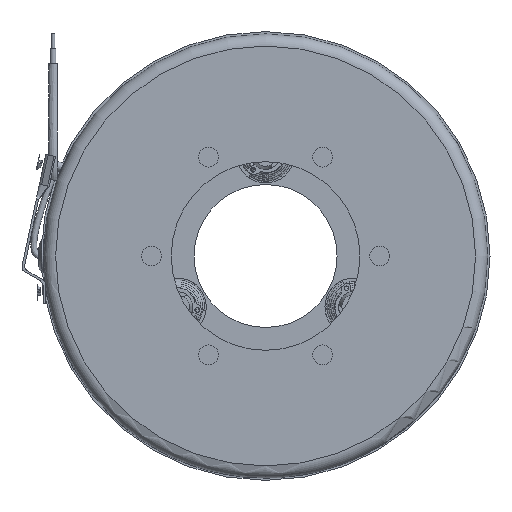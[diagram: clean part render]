
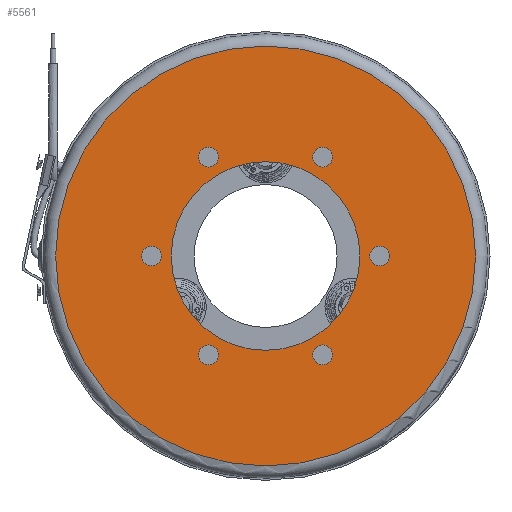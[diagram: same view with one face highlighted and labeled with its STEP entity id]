
A CAD part, left-side view. The second image highlights one B-rep face of the part: STEP entity #5561.
In plain terms, the highlighted planar face has unit normal (-1, 0, 0).
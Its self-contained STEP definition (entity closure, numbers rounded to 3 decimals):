
#58=PLANE('',#5934);
#235=FACE_BOUND('',#741,.T.);
#236=FACE_BOUND('',#742,.T.);
#237=FACE_BOUND('',#743,.T.);
#238=FACE_BOUND('',#744,.T.);
#239=FACE_BOUND('',#745,.T.);
#240=FACE_BOUND('',#746,.T.);
#241=FACE_BOUND('',#747,.T.);
#434=FACE_OUTER_BOUND('',#740,.T.);
#740=EDGE_LOOP('',(#3632,#3633));
#741=EDGE_LOOP('',(#3634,#3635));
#742=EDGE_LOOP('',(#3636,#3637));
#743=EDGE_LOOP('',(#3638,#3639));
#744=EDGE_LOOP('',(#3640,#3641));
#745=EDGE_LOOP('',(#3642,#3643));
#746=EDGE_LOOP('',(#3644,#3645));
#747=EDGE_LOOP('',(#3646,#3647));
#1126=CIRCLE('',#5879,69.);
#1127=CIRCLE('',#5880,69.);
#1135=CIRCLE('',#5891,3.25);
#1136=CIRCLE('',#5892,3.25);
#1138=CIRCLE('',#5895,3.25);
#1139=CIRCLE('',#5896,3.25);
#1141=CIRCLE('',#5899,3.25);
#1142=CIRCLE('',#5900,3.25);
#1144=CIRCLE('',#5903,3.25);
#1145=CIRCLE('',#5904,3.25);
#1147=CIRCLE('',#5907,3.25);
#1148=CIRCLE('',#5908,3.25);
#1150=CIRCLE('',#5911,3.25);
#1151=CIRCLE('',#5912,3.25);
#1166=CIRCLE('',#5932,31.);
#1167=CIRCLE('',#5933,31.);
#2127=VERTEX_POINT('',#8376);
#2128=VERTEX_POINT('',#8378);
#2156=VERTEX_POINT('',#8649);
#2157=VERTEX_POINT('',#8650);
#2159=VERTEX_POINT('',#8657);
#2160=VERTEX_POINT('',#8658);
#2162=VERTEX_POINT('',#8665);
#2163=VERTEX_POINT('',#8666);
#2165=VERTEX_POINT('',#8673);
#2166=VERTEX_POINT('',#8674);
#2168=VERTEX_POINT('',#8681);
#2169=VERTEX_POINT('',#8682);
#2171=VERTEX_POINT('',#8689);
#2172=VERTEX_POINT('',#8690);
#2185=VERTEX_POINT('',#8736);
#2186=VERTEX_POINT('',#8738);
#2707=EDGE_CURVE('',#2127,#2128,#1126,.T.);
#2708=EDGE_CURVE('',#2128,#2127,#1127,.T.);
#2741=EDGE_CURVE('',#2156,#2157,#1135,.T.);
#2742=EDGE_CURVE('',#2157,#2156,#1136,.T.);
#2745=EDGE_CURVE('',#2159,#2160,#1138,.T.);
#2746=EDGE_CURVE('',#2160,#2159,#1139,.T.);
#2749=EDGE_CURVE('',#2162,#2163,#1141,.T.);
#2750=EDGE_CURVE('',#2163,#2162,#1142,.T.);
#2753=EDGE_CURVE('',#2165,#2166,#1144,.T.);
#2754=EDGE_CURVE('',#2166,#2165,#1145,.T.);
#2757=EDGE_CURVE('',#2168,#2169,#1147,.T.);
#2758=EDGE_CURVE('',#2169,#2168,#1148,.T.);
#2761=EDGE_CURVE('',#2171,#2172,#1150,.T.);
#2762=EDGE_CURVE('',#2172,#2171,#1151,.T.);
#2781=EDGE_CURVE('',#2186,#2185,#1166,.T.);
#2782=EDGE_CURVE('',#2185,#2186,#1167,.T.);
#3632=ORIENTED_EDGE('',*,*,#2708,.F.);
#3633=ORIENTED_EDGE('',*,*,#2707,.F.);
#3634=ORIENTED_EDGE('',*,*,#2741,.T.);
#3635=ORIENTED_EDGE('',*,*,#2742,.T.);
#3636=ORIENTED_EDGE('',*,*,#2745,.T.);
#3637=ORIENTED_EDGE('',*,*,#2746,.T.);
#3638=ORIENTED_EDGE('',*,*,#2749,.T.);
#3639=ORIENTED_EDGE('',*,*,#2750,.T.);
#3640=ORIENTED_EDGE('',*,*,#2753,.T.);
#3641=ORIENTED_EDGE('',*,*,#2754,.T.);
#3642=ORIENTED_EDGE('',*,*,#2757,.T.);
#3643=ORIENTED_EDGE('',*,*,#2758,.T.);
#3644=ORIENTED_EDGE('',*,*,#2761,.T.);
#3645=ORIENTED_EDGE('',*,*,#2762,.T.);
#3646=ORIENTED_EDGE('',*,*,#2781,.T.);
#3647=ORIENTED_EDGE('',*,*,#2782,.T.);
#5561=ADVANCED_FACE('',(#434,#235,#236,#237,#238,#239,#240,#241),#58,.T.);
#5879=AXIS2_PLACEMENT_3D('',#8379,#6630,#6631);
#5880=AXIS2_PLACEMENT_3D('',#8380,#6632,#6633);
#5891=AXIS2_PLACEMENT_3D('',#8651,#6663,#6664);
#5892=AXIS2_PLACEMENT_3D('',#8652,#6665,#6666);
#5895=AXIS2_PLACEMENT_3D('',#8659,#6672,#6673);
#5896=AXIS2_PLACEMENT_3D('',#8660,#6674,#6675);
#5899=AXIS2_PLACEMENT_3D('',#8667,#6681,#6682);
#5900=AXIS2_PLACEMENT_3D('',#8668,#6683,#6684);
#5903=AXIS2_PLACEMENT_3D('',#8675,#6690,#6691);
#5904=AXIS2_PLACEMENT_3D('',#8676,#6692,#6693);
#5907=AXIS2_PLACEMENT_3D('',#8683,#6699,#6700);
#5908=AXIS2_PLACEMENT_3D('',#8684,#6701,#6702);
#5911=AXIS2_PLACEMENT_3D('',#8691,#6708,#6709);
#5912=AXIS2_PLACEMENT_3D('',#8692,#6710,#6711);
#5932=AXIS2_PLACEMENT_3D('',#8739,#6753,#6754);
#5933=AXIS2_PLACEMENT_3D('',#8740,#6755,#6756);
#5934=AXIS2_PLACEMENT_3D('',#8741,#6757,#6758);
#6630=DIRECTION('center_axis',(1.,0.,0.));
#6631=DIRECTION('ref_axis',(0.,1.,0.));
#6632=DIRECTION('center_axis',(1.,0.,0.));
#6633=DIRECTION('ref_axis',(0.,1.,0.));
#6663=DIRECTION('center_axis',(1.,0.,0.));
#6664=DIRECTION('ref_axis',(0.,0.866,0.5));
#6665=DIRECTION('center_axis',(1.,0.,0.));
#6666=DIRECTION('ref_axis',(0.,0.866,0.5));
#6672=DIRECTION('center_axis',(1.,0.,0.));
#6673=DIRECTION('ref_axis',(0.,0.866,-0.5));
#6674=DIRECTION('center_axis',(1.,0.,0.));
#6675=DIRECTION('ref_axis',(0.,0.866,-0.5));
#6681=DIRECTION('center_axis',(1.,0.,0.));
#6682=DIRECTION('ref_axis',(0.,0.,
-1.));
#6683=DIRECTION('center_axis',(1.,0.,0.));
#6684=DIRECTION('ref_axis',(0.,0.,
-1.));
#6690=DIRECTION('center_axis',(1.,0.,0.));
#6691=DIRECTION('ref_axis',(0.,-0.866,-0.5));
#6692=DIRECTION('center_axis',(1.,0.,0.));
#6693=DIRECTION('ref_axis',(0.,-0.866,-0.5));
#6699=DIRECTION('center_axis',(1.,0.,0.));
#6700=DIRECTION('ref_axis',(0.,-0.866,0.5));
#6701=DIRECTION('center_axis',(1.,0.,0.));
#6702=DIRECTION('ref_axis',(0.,-0.866,0.5));
#6708=DIRECTION('center_axis',(1.,0.,0.));
#6709=DIRECTION('ref_axis',(0.,0.,1.));
#6710=DIRECTION('center_axis',(1.,0.,0.));
#6711=DIRECTION('ref_axis',(0.,0.,1.));
#6753=DIRECTION('center_axis',(1.,0.,0.));
#6754=DIRECTION('ref_axis',(0.,1.,0.));
#6755=DIRECTION('center_axis',(1.,0.,0.));
#6756=DIRECTION('ref_axis',(0.,1.,0.));
#6757=DIRECTION('center_axis',(-1.,0.,0.));
#6758=DIRECTION('ref_axis',(0.,0.,1.));
#8376=CARTESIAN_POINT('',(-28.,0.,69.));
#8378=CARTESIAN_POINT('',(-28.,69.,0.));
#8379=CARTESIAN_POINT('Origin',(-28.,0.,0.));
#8380=CARTESIAN_POINT('Origin',(-28.,0.,0.));
#8649=CARTESIAN_POINT('',(-28.,21.565,-30.851));
#8650=CARTESIAN_POINT('',(-28.,15.935,-34.101));
#8651=CARTESIAN_POINT('Origin',(-28.,18.75,-32.476));
#8652=CARTESIAN_POINT('Origin',(-28.,18.75,-32.476));
#8657=CARTESIAN_POINT('',(-28.,-15.935,-34.101));
#8658=CARTESIAN_POINT('',(-28.,-21.565,-30.851));
#8659=CARTESIAN_POINT('Origin',(-28.,-18.75,-32.476));
#8660=CARTESIAN_POINT('Origin',(-28.,-18.75,-32.476));
#8665=CARTESIAN_POINT('',(-28.,-37.5,-3.25));
#8666=CARTESIAN_POINT('',(-28.,-37.5,3.25));
#8667=CARTESIAN_POINT('Origin',(-28.,-37.5,0.));
#8668=CARTESIAN_POINT('Origin',(-28.,-37.5,0.));
#8673=CARTESIAN_POINT('',(-28.,-21.565,30.851));
#8674=CARTESIAN_POINT('',(-28.,-15.935,34.101));
#8675=CARTESIAN_POINT('Origin',(-28.,-18.75,32.476));
#8676=CARTESIAN_POINT('Origin',(-28.,-18.75,32.476));
#8681=CARTESIAN_POINT('',(-28.,15.935,34.101));
#8682=CARTESIAN_POINT('',(-28.,21.565,30.851));
#8683=CARTESIAN_POINT('Origin',(-28.,18.75,32.476));
#8684=CARTESIAN_POINT('Origin',(-28.,18.75,32.476));
#8689=CARTESIAN_POINT('',(-28.,37.5,3.25));
#8690=CARTESIAN_POINT('',(-28.,37.5,-3.25));
#8691=CARTESIAN_POINT('Origin',(-28.,37.5,0.));
#8692=CARTESIAN_POINT('Origin',(-28.,37.5,0.));
#8736=CARTESIAN_POINT('',(-28.,-31.,0.));
#8738=CARTESIAN_POINT('',(-28.,31.,0.));
#8739=CARTESIAN_POINT('Origin',(-28.,0.,0.));
#8740=CARTESIAN_POINT('Origin',(-28.,0.,0.));
#8741=CARTESIAN_POINT('Origin',(-28.,50.,0.));
